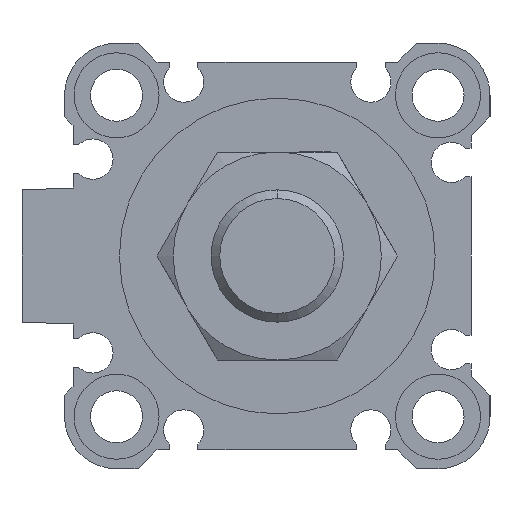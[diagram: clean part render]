
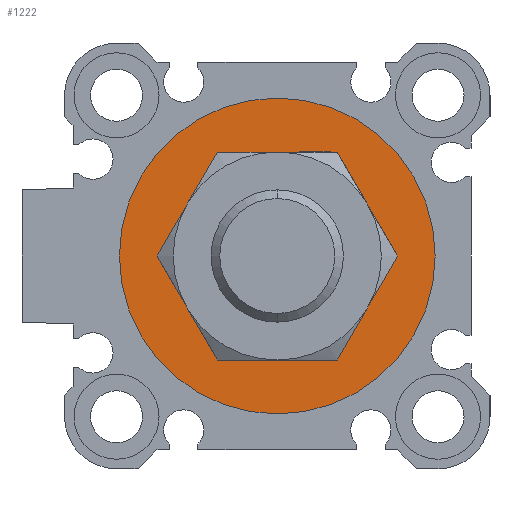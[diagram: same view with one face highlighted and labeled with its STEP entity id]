
A CAD part, left-side view. The second image highlights one B-rep face of the part: STEP entity #1222.
In plain terms, the highlighted planar face has unit normal (-1, 0, 0).
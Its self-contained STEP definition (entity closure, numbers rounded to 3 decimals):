
#136 = AXIS2_PLACEMENT_3D ( 'NONE', #3980, #6680, #6184 ) ;
#959 = VERTEX_POINT ( 'NONE', #1187 ) ;
#1107 = EDGE_CURVE ( 'NONE', #959, #1265, #1603, .T. ) ;
#1187 = CARTESIAN_POINT ( 'NONE',  ( 2.1, 0., 16.7 ) ) ;
#1222 = ADVANCED_FACE ( 'NONE', ( #4246, #5349 ), #6962, .F. ) ;
#1265 = VERTEX_POINT ( 'NONE', #2101 ) ;
#1492 = CARTESIAN_POINT ( 'NONE',  ( 2.1, 0., 0. ) ) ;
#1603 = CIRCLE ( 'NONE', #136, 16.7 ) ;
#1643 = CARTESIAN_POINT ( 'NONE',  ( 2.1, 0., 10.5 ) ) ;
#1683 = EDGE_CURVE ( 'NONE', #2560, #5155, #6913, .T. ) ;
#1748 = ORIENTED_EDGE ( 'NONE', *, *, #3033, .T. ) ;
#2040 = DIRECTION ( 'NONE',  ( 0., 0., -1. ) ) ;
#2056 = ORIENTED_EDGE ( 'NONE', *, *, #6178, .F. ) ;
#2101 = CARTESIAN_POINT ( 'NONE',  ( 2.1, 0., -16.7 ) ) ;
#2294 = EDGE_LOOP ( 'NONE', ( #4169, #2056 ) ) ;
#2389 = CARTESIAN_POINT ( 'NONE',  ( 2.1, 0., 0. ) ) ;
#2401 = AXIS2_PLACEMENT_3D ( 'NONE', #1492, #4214, #3722 ) ;
#2560 = VERTEX_POINT ( 'NONE', #1643 ) ;
#3033 = EDGE_CURVE ( 'NONE', #5155, #2560, #3851, .T. ) ;
#3208 = DIRECTION ( 'NONE',  ( 1., 0., 0. ) ) ;
#3722 = DIRECTION ( 'NONE',  ( 0., 1., 0. ) ) ;
#3851 = CIRCLE ( 'NONE', #4753, 10.5 ) ;
#3980 = CARTESIAN_POINT ( 'NONE',  ( 2.1, 0., 0. ) ) ;
#4169 = ORIENTED_EDGE ( 'NONE', *, *, #1107, .F. ) ;
#4189 = EDGE_LOOP ( 'NONE', ( #4972, #1748 ) ) ;
#4214 = DIRECTION ( 'NONE',  ( 1., 0., 0. ) ) ;
#4246 = FACE_OUTER_BOUND ( 'NONE', #2294, .T. ) ;
#4753 = AXIS2_PLACEMENT_3D ( 'NONE', #2389, #6180, #5607 ) ;
#4850 = AXIS2_PLACEMENT_3D ( 'NONE', #7006, #3208, #2040 ) ;
#4972 = ORIENTED_EDGE ( 'NONE', *, *, #1683, .T. ) ;
#5155 = VERTEX_POINT ( 'NONE', #6071 ) ;
#5184 = CIRCLE ( 'NONE', #4850, 16.7 ) ;
#5349 = FACE_BOUND ( 'NONE', #4189, .T. ) ;
#5425 = AXIS2_PLACEMENT_3D ( 'NONE', #5949, #5983, #6058 ) ;
#5607 = DIRECTION ( 'NONE',  ( 0., 0., -1. ) ) ;
#5949 = CARTESIAN_POINT ( 'NONE',  ( 2.1, 0., 0. ) ) ;
#5983 = DIRECTION ( 'NONE',  ( 1., 0., 0. ) ) ;
#6058 = DIRECTION ( 'NONE',  ( 0., 0., -1. ) ) ;
#6071 = CARTESIAN_POINT ( 'NONE',  ( 2.1, 0., -10.5 ) ) ;
#6178 = EDGE_CURVE ( 'NONE', #1265, #959, #5184, .T. ) ;
#6180 = DIRECTION ( 'NONE',  ( 1., 0., 0. ) ) ;
#6184 = DIRECTION ( 'NONE',  ( 0., 0., -1. ) ) ;
#6680 = DIRECTION ( 'NONE',  ( 1., 0., 0. ) ) ;
#6913 = CIRCLE ( 'NONE', #5425, 10.5 ) ;
#6962 = PLANE ( 'NONE',  #2401 ) ;
#7006 = CARTESIAN_POINT ( 'NONE',  ( 2.1, 0., 0. ) ) ;
